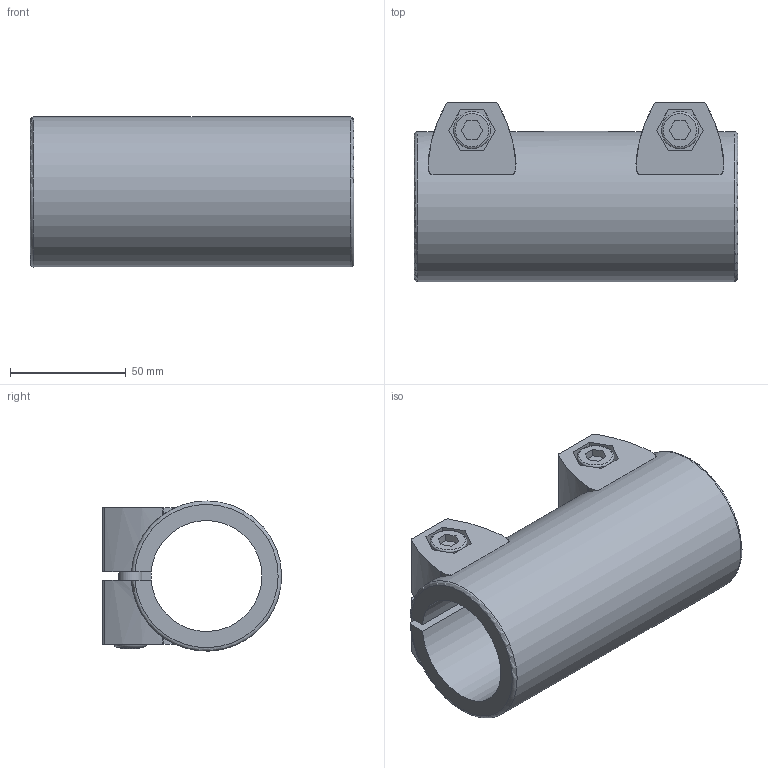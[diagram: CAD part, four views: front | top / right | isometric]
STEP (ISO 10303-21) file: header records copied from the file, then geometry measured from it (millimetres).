
FILE_DESCRIPTION( ( 'STEP AP203' ), '1' );
FILE_NAME( 'C:/Temp/Ganter_Step_05_03_2020/data/3_7/gn242/gn242_2/Tube connector GN 242-B48-B48-2-BL.stp', '2020-03-12T14:40:21', ( 'License CC BY-ND 4.0' ), ( 'CADENAS' ), ' ', 'PARTsolutions', ' ' );
FILE_SCHEMA( ( 'CONFIG_CONTROL_DESIGN' ) );
Length unit declared in the file: millimetre
Products named in the file (1): _Tube connector GN 242-B48-B48-2-BL
Bounding box: 140 x 77.48 x 64.96 mm (x, y, z)
Volume: 266608.1 mm3; surface area: 65416.3 mm2
Topology: 1 solids, 1 shells, 162 faces, 436 edges, 286 vertices
Faces by surface type: plane 84, cylinder 66, torus 8, cone 4
Full cylindrical faces by diameter (mm): 10 x2, 14 x2, 16 x2, 48 x1, 65 x1
Entity records: 5256 total; most frequent: CARTESIAN_POINT 1279, ORIENTED_EDGE 824, DIRECTION 782, EDGE_CURVE 412, VERTEX_POINT 282, AXIS2_PLACEMENT_3D 273, LINE 236, VECTOR 236
